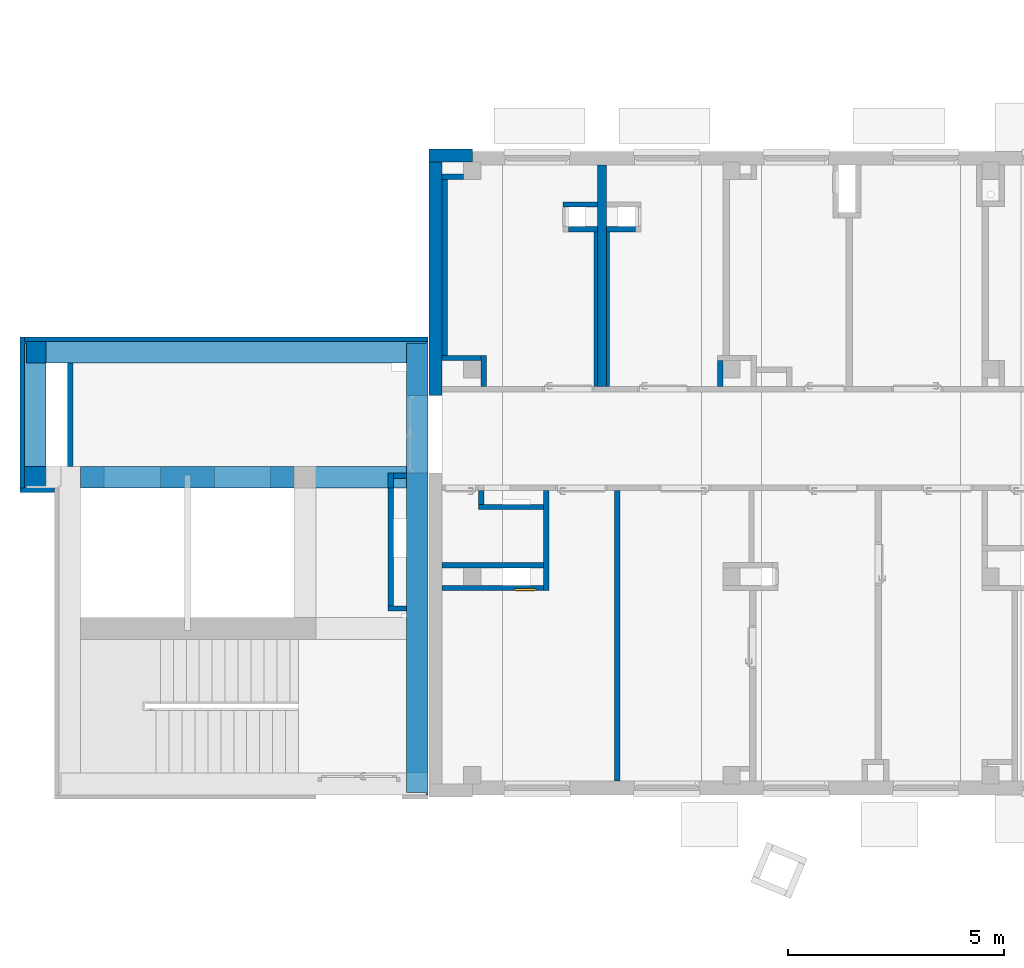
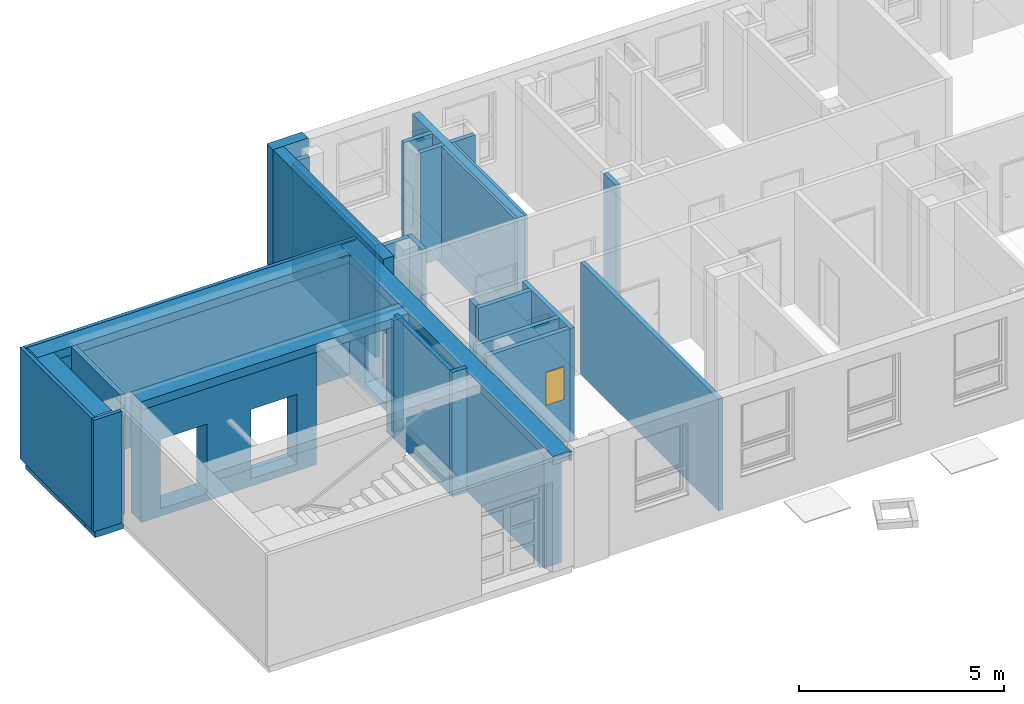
# One storey, part 14 of 140: 33 walls, 1 window, 4 openings.
"""IFC4 building model written with IfcOpenShell, lengths in metres."""

from ifc_helpers import new_model, entity, si_unit, converted_unit, derived_unit, frame, frame_2d, origin, origin_with_axes, place, context, subcontext, project, spatial, polyline, rectangle, outline, extrude, clip, bounded_halfspace, faceted_brep, source, transform, mapped, material, layer, layer_set, layer_usage, element, fill, save


model = new_model("IFC4")

# Units and contexts
model_context = context("Model", 3, precision=1e-05, world=origin())
body_context = subcontext(model_context, "Body", "Model", "MODEL_VIEW")
ifc_project = project(units=[si_unit("LENGTHUNIT", "METRE"), si_unit("AREAUNIT", "SQUARE_METRE"), si_unit("VOLUMEUNIT", "CUBIC_METRE"), si_unit("MASSUNIT", "GRAM", prefix="KILO"), converted_unit("PLANEANGLEUNIT", "DEGREE", entity("IfcPlaneAngleMeasure", 0.0174532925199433), si_unit("PLANEANGLEUNIT", "RADIAN"), dimensions=[0, 0, 0, 0, 0, 0, 0]), derived_unit("THERMALTRANSMITTANCEUNIT", [(si_unit("POWERUNIT", "WATT"), 1), (si_unit("THERMODYNAMICTEMPERATUREUNIT", "KELVIN"), -1), (si_unit("LENGTHUNIT", "METRE"), -2)]), derived_unit("VOLUMETRICFLOWRATEUNIT", [(si_unit("LENGTHUNIT", "METRE"), 3), (converted_unit("TIMEUNIT", "hour", entity("IfcTimeMeasure", 3600.0), si_unit("TIMEUNIT", "SECOND"), dimensions=[0, 0, 1, 0, 0, 0, 0]), -1), (si_unit("LENGTHUNIT", "METRE"), -1)])], contexts=[model_context])

# Site, building, storey
site_placement = place(None, origin())
site = spatial("IfcSite", under=ifc_project, at=site_placement, Name="3. ASŘ", CompositionType="ELEMENT")
building_placement = place(site_placement, origin())
building = spatial("IfcBuilding", under=site, at=building_placement, Name="Pavilon C", CompositionType="ELEMENT")
storey_placement = place(building_placement, origin())
storey = spatial("IfcBuildingStorey", under=building, at=storey_placement, Name="Půdorys 1.NP", CompositionType="ELEMENT", Elevation=0.0)

# Wall, opening
ifc_material_1 = material(Name="ZDIVO Z CDm")
ifc_layer_1 = layer(ifc_material_1, 0.5)
ifc_layer_set_1 = layer_set([ifc_layer_1])
ifc_layer_usage_1 = layer_usage(ifc_layer_set_1, "AXIS2", "POSITIVE", 0.0)
wall_1_placement = place(storey_placement, frame((-1.025, 0.850000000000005, -0.22), z_axis=(0.0, 0.0, 1.0), x_axis=(7.27595761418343e-16, 1.0, 0.0)))
wall_1 = element("IfcWall", 1, at=wall_1_placement, inside=storey, material=ifc_layer_usage_1, Name="ZDIVO Z CDm", context=body_context, shape_type="SweptSolid", body=[
    extrude(rectangle(XDim=10.0, YDim=0.5, at=frame_2d((5.0, 0.25), x_axis=(1.0, 0.0))), origin_with_axes(), (0.0, 0.0, 1.0), 3.35),
])
opening_1_placement = place(wall_1_placement, frame((8.75, 0.5, 0.22), z_axis=(0.0, -1.0, 0.0), x_axis=(0.0, 0.0, 1.0)))
element("IfcOpeningElement", 2, at=opening_1_placement, cuts=wall_1, Name="Dveřní otvor", ObjectType="Opening", context=body_context, shape_type="SweptSolid", body=[
    extrude(outline(polyline([(0.0, 1.8), (2.1, 1.8), (2.1, 0.0), (0.0, 0.0), (0.0, 1.8)])), origin_with_axes(), (0.0, 0.0, 1.0), 0.5),
])

# Walls
ifc_material_2 = material(Name="ZELEZOBETONOVÁ KCE")
ifc_layer_2 = layer(ifc_material_2, 0.3)
ifc_layer_set_2 = layer_set([ifc_layer_2])
ifc_layer_usage_2 = layer_usage(ifc_layer_set_2, "AXIS2", "POSITIVE", 0.0)
wall_2_placement = place(storey_placement, frame((-0.699999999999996, 9.59999999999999, -0.1), z_axis=(0.0, 0.0, 1.0), x_axis=(6.31593542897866e-17, 1.0, 0.0)))
element("IfcWall", 3, at=wall_2_placement, inside=storey, material=ifc_layer_usage_2, Name="ZELEZOBETONOVÁ KCE", context=body_context, shape_type="SweptSolid", body=[
    extrude(rectangle(XDim=5.40000000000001, YDim=0.3, at=frame_2d((2.70000000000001, 0.15), x_axis=(1.0, 0.0))), origin_with_axes(), (0.0, 0.0, 1.0), 3.6),
])
ifc_material_3 = material(Name="ZELEZOBETONOVÁ KCE")
ifc_layer_3 = layer(ifc_material_3, 0.3)
ifc_layer_set_3 = layer_set([ifc_layer_3])
ifc_layer_usage_3 = layer_usage(ifc_layer_set_3, "AXIS2", "POSITIVE", 0.0)
wall_3_placement = place(storey_placement, frame((4.09391348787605e-15, 15.3, -0.1), z_axis=(0.0, 0.0, 1.0), x_axis=(-1.0, 0.0, 0.0)))
element("IfcWall", 4, at=wall_3_placement, inside=storey, material=ifc_layer_usage_3, Name="ZELEZOBETONOVÁ KCE", context=body_context, shape_type="SweptSolid", body=[
    extrude(rectangle(XDim=1.0, YDim=0.3, at=frame_2d((0.500000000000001, 0.15), x_axis=(1.0, 0.0))), origin_with_axes(), (0.0, 0.0, 1.0), 3.6),
])
ifc_material_4 = material(Name="ZDIVO Z CDm")
ifc_layer_4 = layer(ifc_material_4, 0.125)
ifc_layer_set_4 = layer_set([ifc_layer_4])
ifc_layer_usage_4 = layer_usage(ifc_layer_set_4, "AXIS2", "POSITIVE", 0.0)
wall_4_placement = place(storey_placement, frame((-1.52499999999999, 7.79999999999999, -0.22), z_axis=(0.0, 0.0, 1.0), x_axis=(-1.0, 0.0, 0.0)))
element("IfcWall", 5, at=wall_4_placement, inside=storey, material=ifc_layer_usage_4, Name="ZDIVO Z CDm", context=body_context, shape_type="SweptSolid", body=[
    extrude(rectangle(XDim=0.299999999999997, YDim=0.125, at=frame_2d((0.149999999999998, 0.0625), x_axis=(1.0, 0.0))), origin_with_axes(), (0.0, 0.0, 1.0), 3.35),
])
ifc_material_5 = material(Name="ZDIVO Z CDm")
ifc_layer_5 = layer(ifc_material_5, 0.125)
ifc_layer_set_5 = layer_set([ifc_layer_5])
ifc_layer_usage_5 = layer_usage(ifc_layer_set_5, "AXIS2", "POSITIVE", 0.0)
wall_5_placement = place(storey_placement, frame((-1.94999999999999, 7.45, -0.22), z_axis=(0.0, 0.0, 1.0), x_axis=(-8.34398808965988e-17, -1.0, 0.0)))
element("IfcWall", 6, at=wall_5_placement, inside=storey, material=ifc_layer_usage_5, Name="ZDIVO Z CDm", context=body_context, shape_type="SweptSolid", body=[
    extrude(rectangle(XDim=2.725, YDim=0.125, at=frame_2d((1.3625, 0.0625), x_axis=(1.0, 0.0))), origin_with_axes(), (0.0, 0.0, 1.0), 3.7),
])
ifc_material_6 = material(Name="ZDIVO Z CDm")
ifc_layer_6 = layer(ifc_material_6, 0.125)
ifc_layer_set_6 = layer_set([ifc_layer_6])
ifc_layer_usage_6 = layer_usage(ifc_layer_set_6, "AXIS2", "POSITIVE", 0.0)
wall_6_placement = place(storey_placement, frame((-1.94999999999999, 7.79999999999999, -0.22), z_axis=(0.0, 0.0, 1.0), x_axis=(0.0, -1.0, 0.0)))
element("IfcWall", 7, at=wall_6_placement, inside=storey, material=ifc_layer_usage_6, Name="ZDIVO Z CDm", context=body_context, shape_type="SweptSolid", body=[
    extrude(rectangle(XDim=0.34999999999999, YDim=0.125, at=frame_2d((0.174999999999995, 0.0625), x_axis=(1.0, 0.0))), origin_with_axes(), (0.0, 0.0, 1.0), 3.35),
])
ifc_material_7 = material(Name="ZELEZOBETONOVÁ KCE")
ifc_layer_7 = layer(ifc_material_7, 0.199999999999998)
ifc_layer_set_7 = layer_set([ifc_layer_7])
ifc_layer_usage_7 = layer_usage(ifc_layer_set_7, "AXIS2", "POSITIVE", 0.0)
wall_7_placement = place(storey_placement, frame((2.9, 14.93, -0.4), z_axis=(0.0, 0.0, 1.0), x_axis=(-1.77289415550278e-16, -1.0, 0.0)))
element("IfcWall", 8, at=wall_7_placement, inside=storey, material=ifc_layer_usage_7, Name="ZELEZOBETONOVÁ KCE", context=body_context, shape_type="SweptSolid", body=[
    extrude(rectangle(XDim=5.13, YDim=0.199999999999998, at=frame_2d((2.565, 0.0999999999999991), x_axis=(1.0, 0.0))), origin_with_axes(), (0.0, 0.0, 1.0), 3.65),
])
ifc_material_8 = material(Name="ZDIVO Z CDm")
ifc_layer_8 = layer(ifc_material_8, 0.125)
ifc_layer_set_8 = layer_set([ifc_layer_8])
ifc_layer_usage_8 = layer_usage(ifc_layer_set_8, "AXIS2", "POSITIVE", 0.0)
wall_8_placement = place(storey_placement, frame((0.200000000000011, 10.525, -0.1), z_axis=(0.0, 0.0, 1.0), x_axis=(-1.96011789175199e-16, -1.0, 0.0)))
element("IfcWall", 9, at=wall_8_placement, inside=storey, material=ifc_layer_usage_8, Name="ZDIVO Z CDm", context=body_context, shape_type="SweptSolid", body=[
    extrude(rectangle(XDim=0.725000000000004, YDim=0.125, at=frame_2d((0.362500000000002, 0.0625), x_axis=(1.0, 0.0))), origin_with_axes(), (0.0, 0.0, 1.0), 3.35),
])
ifc_material_9 = material(Name="ZDIVO Z CDm")
ifc_layer_9 = layer(ifc_material_9, 0.125)
ifc_layer_set_9 = layer_set([ifc_layer_9])
ifc_layer_usage_9 = layer_usage(ifc_layer_set_9, "AXIS2", "POSITIVE", 0.0)
wall_9_placement = place(storey_placement, frame((-0.699999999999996, 10.4, -0.1)))
element("IfcWall", 10, at=wall_9_placement, inside=storey, material=ifc_layer_usage_9, Name="ZDIVO Z CDm", context=body_context, shape_type="SweptSolid", body=[
    extrude(rectangle(XDim=0.900000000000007, YDim=0.125, at=frame_2d((0.450000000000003, 0.0625), x_axis=(1.0, 0.0))), origin_with_axes(), (0.0, 0.0, 1.0), 3.35),
])
ifc_material_10 = material(Name="PÓROBETONOVÉ ZDIVO")
ifc_layer_10 = layer(ifc_material_10, 0.12)
ifc_layer_set_10 = layer_set([ifc_layer_10])
ifc_layer_usage_10 = layer_usage(ifc_layer_set_10, "AXIS2", "POSITIVE", 0.0)
wall_10_placement = place(storey_placement, frame((-0.699999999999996, 14.6, -0.1), z_axis=(0.0, 0.0, 1.0), x_axis=(-5.57972209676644e-17, -1.0, 0.0)))
element("IfcWall", 11, at=wall_10_placement, inside=storey, material=ifc_layer_usage_10, Name="PÓROBETONOVÉ ZDIVO", context=body_context, shape_type="SweptSolid", body=[
    extrude(rectangle(XDim=4.075, YDim=0.12, at=frame_2d((2.0375, 0.06), x_axis=(1.0, 0.0))), origin_with_axes(), (0.0, 0.0, 1.0), 3.35),
])
ifc_material_11 = material(Name="PÓROBETONOVÉ ZDIVO")
ifc_layer_11 = layer(ifc_material_11, 0.08)
ifc_layer_set_11 = layer_set([ifc_layer_11])
ifc_layer_usage_11 = layer_usage(ifc_layer_set_11, "AXIS2", "POSITIVE", 0.0)
wall_11_placement = place(storey_placement, frame((2.90000000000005, 9.8, -0.1), z_axis=(0.0, 0.0, 1.0), x_axis=(1.27024399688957e-16, 1.0, 0.0)))
element("IfcWall", 12, at=wall_11_placement, inside=storey, material=ifc_layer_usage_11, Name="PÓROBETONOVÉ ZDIVO", context=body_context, shape_type="SweptSolid", body=[
    extrude(rectangle(XDim=3.58, YDim=0.08, at=frame_2d((1.79, 0.04), x_axis=(1.0, 0.0))), origin_with_axes(), (0.0, 0.0, 1.0), 3.35),
])
ifc_material_12 = material(Name="PÓROBETONOVÉ ZDIVO")
ifc_layer_12 = layer(ifc_material_12, 0.08)
ifc_layer_set_12 = layer_set([ifc_layer_12])
ifc_layer_usage_12 = layer_usage(ifc_layer_set_12, "AXIS2", "POSITIVE", 0.0)
wall_12_placement = place(storey_placement, frame((3.1, 13.38, -0.1), z_axis=(0.0, 0.0, 1.0), x_axis=(0.0, -1.0, 0.0)))
element("IfcWall", 13, at=wall_12_placement, inside=storey, material=ifc_layer_usage_12, Name="PÓROBETONOVÉ ZDIVO", context=body_context, shape_type="SweptSolid", body=[
    extrude(rectangle(XDim=3.58, YDim=0.08, at=frame_2d((1.79, 0.04), x_axis=(1.0, 0.0))), origin_with_axes(), (0.0, 0.0, 1.0), 3.35),
])
ifc_material_13 = material(Name="ZDIVO Z CDm")
ifc_layer_13 = layer(ifc_material_13, 0.125)
ifc_layer_set_13 = layer_set([ifc_layer_13])
ifc_layer_usage_13 = layer_usage(ifc_layer_set_13, "AXIS2", "POSITIVE", 0.0)
wall_13_placement = place(storey_placement, frame((-0.699999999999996, 14.6, -0.1)))
element("IfcWall", 14, at=wall_13_placement, inside=storey, material=ifc_layer_usage_13, Name="ZDIVO Z CDm", context=body_context, shape_type="SweptSolid", body=[
    extrude(rectangle(XDim=0.500000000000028, YDim=0.125, at=frame_2d((0.250000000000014, 0.0625), x_axis=(1.0, 0.0))), origin_with_axes(), (0.0, 0.0, 1.0), 3.35),
])
ifc_material_14 = material(Name="ZDIVO Z CDm")
ifc_layer_14 = layer(ifc_material_14, 0.125)
ifc_layer_set_14 = layer_set([ifc_layer_14])
ifc_layer_usage_14 = layer_usage(ifc_layer_set_14, "AXIS2", "POSITIVE", 0.0)
wall_14_placement = place(storey_placement, frame((5.80000000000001, 9.8, -0.1), z_axis=(0.0, 0.0, 1.0), x_axis=(0.0, 1.0, 0.0)))
element("IfcWall", 15, at=wall_14_placement, inside=storey, material=ifc_layer_usage_14, Name="ZDIVO Z CDm", context=body_context, shape_type="SweptSolid", body=[
    extrude(rectangle(XDim=0.6, YDim=0.125, at=frame_2d((0.3, 0.0625), x_axis=(1.0, 0.0))), origin_with_axes(), (0.0, 0.0, 1.0), 3.35),
])
ifc_material_15 = material(Name="ZDIVO Z CDm")
ifc_layer_15 = layer(ifc_material_15, 0.125)
ifc_layer_set_15 = layer_set([ifc_layer_15])
ifc_layer_usage_15 = layer_usage(ifc_layer_set_15, "AXIS2", "POSITIVE", 0.0)
wall_15_placement = place(storey_placement, frame((3.77500000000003, 13.505, -0.1), z_axis=(0.0, 0.0, 1.0), x_axis=(-1.0, 0.0, 0.0)))
element("IfcWall", 16, at=wall_15_placement, inside=storey, material=ifc_layer_usage_15, Name="ZDIVO Z CDm", context=body_context, shape_type="SweptSolid", body=[
    extrude(rectangle(XDim=0.675000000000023, YDim=0.125, at=frame_2d((0.337500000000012, 0.0625), x_axis=(1.0, 0.0))), origin_with_axes(), (0.0, 0.0, 1.0), 3.35),
])
ifc_material_16 = material(Name="ZDIVO Z CDm")
ifc_layer_16 = layer(ifc_material_16, 0.125)
ifc_layer_set_16 = layer_set([ifc_layer_16])
ifc_layer_usage_16 = layer_usage(ifc_layer_set_16, "AXIS2", "POSITIVE", 0.0)
wall_16_placement = place(storey_placement, frame((2.10000000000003, 13.955, -0.1)))
element("IfcWall", 17, at=wall_16_placement, inside=storey, material=ifc_layer_usage_16, Name="ZDIVO Z CDm", context=body_context, shape_type="SweptSolid", body=[
    extrude(rectangle(XDim=0.800000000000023, YDim=0.125, at=frame_2d((0.400000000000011, 0.0625), x_axis=(1.0, 0.0))), origin_with_axes(), (0.0, 0.0, 1.0), 3.35),
])
ifc_material_17 = material(Name="ZDIVO Z CDm")
ifc_layer_17 = layer(ifc_material_17, 0.125)
ifc_layer_set_17 = layer_set([ifc_layer_17])
ifc_layer_usage_17 = layer_usage(ifc_layer_set_17, "AXIS2", "POSITIVE", 0.0)
wall_17_placement = place(storey_placement, frame((2.90000000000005, 13.505, -0.1), z_axis=(0.0, 0.0, 1.0), x_axis=(-1.0, 0.0, 0.0)))
element("IfcWall", 18, at=wall_17_placement, inside=storey, material=ifc_layer_usage_17, Name="ZDIVO Z CDm", context=body_context, shape_type="SweptSolid", body=[
    extrude(rectangle(XDim=0.675000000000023, YDim=0.125, at=frame_2d((0.337500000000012, 0.0625), x_axis=(1.0, 0.0))), origin_with_axes(), (0.0, 0.0, 1.0), 3.35),
])
ifc_material_18 = material(Name="ZDIVO Z CDm")
ifc_layer_18 = layer(ifc_material_18, 0.125)
ifc_layer_set_18 = layer_set([ifc_layer_18])
ifc_layer_usage_18 = layer_usage(ifc_layer_set_18, "AXIS2", "POSITIVE", 0.0)
wall_18_placement = place(storey_placement, frame((-0.699999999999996, 5.6, -0.1)))
element("IfcWall", 19, at=wall_18_placement, inside=storey, material=ifc_layer_usage_18, Name="ZDIVO Z CDm", context=body_context, shape_type="SweptSolid", body=[
    extrude(rectangle(XDim=2.35000000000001, YDim=0.125, at=frame_2d((1.17500000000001, 0.0625), x_axis=(1.0, 0.0))), origin_with_axes(), (0.0, 0.0, 1.0), 3.35),
])

# Wall, opening, window
ifc_material_19 = material(Name="ZDIVO Z CDm")
ifc_layer_19 = layer(ifc_material_19, 0.125)
ifc_layer_set_19 = layer_set([ifc_layer_19])
ifc_layer_usage_19 = layer_usage(ifc_layer_set_19, "AXIS2", "POSITIVE", 0.0)
wall_19_placement = place(storey_placement, frame((1.65000000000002, 5.20000000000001, -0.1), z_axis=(0.0, 0.0, 1.0), x_axis=(-1.0, 0.0, 0.0)))
wall_19 = element("IfcWall", 20, at=wall_19_placement, inside=storey, material=ifc_layer_usage_19, Name="ZDIVO Z CDm", context=body_context, shape_type="SweptSolid", body=[
    extrude(rectangle(XDim=2.35000000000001, YDim=0.125, at=frame_2d((1.17500000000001, 0.0625), x_axis=(1.0, 0.0))), origin_with_axes(), (0.0, 0.0, 1.0), 3.35),
])
opening_2_placement = place(wall_19_placement, frame((0.675, 0.125, 1.3), z_axis=(0.0, -1.0, 0.0), x_axis=(0.0, 0.0, 1.0)))
opening_2 = element("IfcOpeningElement", 21, at=opening_2_placement, cuts=wall_19, Name="Okenní otvor", ObjectType="Opening", context=body_context, shape_type="SweptSolid", body=[
    extrude(outline(polyline([(0.0, 0.5), (1.0, 0.5), (1.0, 0.0), (0.0, 0.0), (0.0, 0.5)])), origin_with_axes(), (0.0, 0.0, 1.0), 0.125),
])
shared_shape = source(origin_with_axes(), body_context, "Body", "Brep", [
    faceted_brep([(0.0, 0.0600000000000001, 1.0), (0.0, 0.06, 4.91096680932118e-19), (0.02, 0.06, 4.91096680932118e-19), (0.02, 0.0600000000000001, 1.0), (0.0, 0.01, 6.61433067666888e-18), (0.0, 0.0100000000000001, 1.0), (0.02, 0.0100000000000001, 1.0), (0.02, 0.01, 6.61433067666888e-18)], [[[0, 1, 2, 3]], [[4, 5, 6, 7]], [[1, 0, 5, 4]], [[2, 1, 4, 7]], [[3, 2, 7, 6]], [[0, 3, 6, 5]]], orient=[[False], [False], [False], [False], [False], [False]]),
    faceted_brep([(0.48, 0.0600000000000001, 1.0), (0.48, 0.06, 4.91096680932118e-19), (0.5, 0.06, 4.91096680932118e-19), (0.5, 0.0600000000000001, 1.0), (0.48, 0.01, 6.61433067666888e-18), (0.48, 0.0100000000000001, 1.0), (0.5, 0.0100000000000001, 1.0), (0.5, 0.01, 6.61433067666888e-18)], [[[0, 1, 2, 3]], [[4, 5, 6, 7]], [[1, 0, 5, 4]], [[2, 1, 4, 7]], [[3, 2, 7, 6]], [[0, 3, 6, 5]]], orient=[[False], [False], [False], [False], [False], [False]]),
    faceted_brep([(0.02, 0.06, 0.02), (0.02, 0.06, 4.91096680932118e-19), (0.48, 0.06, 4.91096680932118e-19), (0.48, 0.06, 0.02), (0.02, 0.01, 6.61433067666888e-18), (0.02, 0.01, 0.02), (0.48, 0.01, 0.02), (0.48, 0.01, 6.61433067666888e-18)], [[[0, 1, 2, 3]], [[4, 5, 6, 7]], [[1, 0, 5, 4]], [[2, 1, 4, 7]], [[3, 2, 7, 6]], [[0, 3, 6, 5]]], orient=[[False], [False], [False], [False], [False], [False]]),
    faceted_brep([(0.02, 0.0600000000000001, 1.0), (0.02, 0.0600000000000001, 0.98), (0.48, 0.0600000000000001, 0.98), (0.48, 0.0600000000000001, 1.0), (0.02, 0.0100000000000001, 0.98), (0.02, 0.0100000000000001, 1.0), (0.48, 0.0100000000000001, 1.0), (0.48, 0.0100000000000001, 0.98)], [[[0, 1, 2, 3]], [[4, 5, 6, 7]], [[1, 0, 5, 4]], [[2, 1, 4, 7]], [[3, 2, 7, 6]], [[0, 3, 6, 5]]], orient=[[False], [False], [False], [False], [False], [False]]),
    faceted_brep([(0.02, 0.0100000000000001, 0.98), (0.02, 0.01, 0.02), (0.48, 0.01, 0.02), (0.48, 0.0100000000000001, 0.98), (0.02, 0.0, 0.02), (0.02, 1.17239551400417e-16, 0.98), (0.48, 1.17239551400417e-16, 0.98), (0.48, 0.0, 0.02)], [[[0, 1, 2, 3]], [[4, 5, 6, 7]], [[1, 0, 5, 4]], [[2, 1, 4, 7]], [[3, 2, 7, 6]], [[0, 3, 6, 5]]], orient=[[False], [False], [False], [False], [False], [False]]),
])
window_placement = place(opening_2_placement, frame((0.0, 0.5, -0.01), z_axis=(1.0, 0.0, 0.0), x_axis=(0.0, -1.0, 0.0)))
window = element("IfcWindow", 22, at=window_placement, inside=storey, Name="O01", OverallHeight=1.0, OverallWidth=0.5, PartitioningType="USERDEFINED", PredefinedType="WINDOW", context=body_context, shape_type="MappedRepresentation", body=[
    mapped(shared_shape, transform((0.0, 0.0, 0.0), x_axis=(1.0, 0.0, 0.0), y_axis=(0.0, -1.0, 0.0), z_axis=(0.0, 0.0, 1.0), scale=1.0)),
])
fill(opening_2, window)

# Walls
ifc_material_20 = material(Name="ZDIVO Z CDm")
ifc_layer_20 = layer(ifc_material_20, 0.125)
ifc_layer_set_20 = layer_set([ifc_layer_20])
ifc_layer_usage_20 = layer_usage(ifc_layer_set_20, "AXIS2", "POSITIVE", 0.0)
wall_20_placement = place(storey_placement, frame((1.65000000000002, 7.4, -0.1), z_axis=(0.0, 0.0, 1.0), x_axis=(-9.77951292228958e-17, -1.0, 0.0)))
element("IfcWall", 23, at=wall_20_placement, inside=storey, material=ifc_layer_usage_20, Name="ZDIVO Z CDm", context=body_context, shape_type="SweptSolid", body=[
    extrude(rectangle(XDim=2.32499999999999, YDim=0.125, at=frame_2d((1.1625, 0.0625), x_axis=(1.0, 0.0))), origin_with_axes(), (0.0, 0.0, 1.0), 3.35),
])
ifc_material_21 = material(Name="ZDIVO Z CDm")
ifc_layer_21 = layer(ifc_material_21, 0.125)
ifc_layer_set_21 = layer_set([ifc_layer_21])
ifc_layer_usage_21 = layer_usage(ifc_layer_set_21, "AXIS2", "POSITIVE", 0.0)
wall_21_placement = place(storey_placement, frame((1.65000000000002, 7.075, -0.1), z_axis=(0.0, 0.0, 1.0), x_axis=(-1.0, 0.0, 0.0)))
element("IfcWall", 24, at=wall_21_placement, inside=storey, material=ifc_layer_usage_21, Name="ZDIVO Z CDm", context=body_context, shape_type="SweptSolid", body=[
    extrude(rectangle(XDim=1.50500000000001, YDim=0.125, at=frame_2d((0.752500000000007, 0.0625), x_axis=(1.0, 0.0))), origin_with_axes(), (0.0, 0.0, 1.0), 3.35),
])
ifc_material_22 = material(Name="ZDIVO Z CDm")
ifc_layer_22 = layer(ifc_material_22, 0.125)
ifc_layer_set_22 = layer_set([ifc_layer_22])
ifc_layer_usage_22 = layer_usage(ifc_layer_set_22, "AXIS2", "POSITIVE", 0.0)
wall_22_placement = place(storey_placement, frame((0.270000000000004, 7.075, -0.1), z_axis=(0.0, 0.0, 1.0), x_axis=(0.0, 1.0, 0.0)))
element("IfcWall", 25, at=wall_22_placement, inside=storey, material=ifc_layer_usage_22, Name="ZDIVO Z CDm", context=body_context, shape_type="SweptSolid", body=[
    extrude(rectangle(XDim=0.325000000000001, YDim=0.125, at=frame_2d((0.1625, 0.0625), x_axis=(1.0, 0.0))), origin_with_axes(), (0.0, 0.0, 1.0), 3.35),
])
ifc_material_23 = material(Name="ZDIVO Z CDm")
ifc_layer_23 = layer(ifc_material_23, 0.125)
ifc_layer_set_23 = layer_set([ifc_layer_23])
ifc_layer_usage_23 = layer_usage(ifc_layer_set_23, "AXIS2", "POSITIVE", 0.0)
wall_23_placement = place(storey_placement, frame((-1.94999999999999, 4.6, -0.22)))
element("IfcWall", 26, at=wall_23_placement, inside=storey, material=ifc_layer_usage_23, Name="ZDIVO Z CDm", context=body_context, shape_type="SweptSolid", body=[
    extrude(rectangle(XDim=0.424999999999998, YDim=0.125, at=frame_2d((0.212499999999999, 0.0625), x_axis=(1.0, 0.0))), origin_with_axes(), (0.0, 0.0, 1.0), 3.7),
])
ifc_material_24 = material(Name="ZDIVO Z CDm")
ifc_layer_24 = layer(ifc_material_24, 0.125)
ifc_layer_set_24 = layer_set([ifc_layer_24])
ifc_layer_usage_24 = layer_usage(ifc_layer_set_24, "AXIS2", "POSITIVE", 0.0)
wall_24_placement = place(storey_placement, frame((3.295, 7.4, -0.1), z_axis=(0.0, 0.0, 1.0), x_axis=(-2.02710557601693e-16, -1.0, 0.0)))
element("IfcWall", 27, at=wall_24_placement, inside=storey, material=ifc_layer_usage_24, Name="ZDIVO Z CDm", context=body_context, shape_type="SweptSolid", body=[
    extrude(rectangle(XDim=6.73, YDim=0.125, at=frame_2d((3.365, 0.0625000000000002), x_axis=(1.0, 0.0))), origin_with_axes(), (0.0, 0.0, 1.0), 3.35),
])
ifc_material_25 = material(Name="ZDIVO Z CDm")
ifc_layer_25 = layer(ifc_material_25, 0.125)
ifc_layer_set_25 = layer_set([ifc_layer_25])
ifc_layer_usage_25 = layer_usage(ifc_layer_set_25, "AXIS2", "POSITIVE", 0.0)
wall_25_placement = place(storey_placement, frame((-9.37499999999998, 10.35, -0.22), z_axis=(0.0, 0.0, 1.0), x_axis=(0.0, -1.0, 0.0)))
element("IfcWall", 28, at=wall_25_placement, inside=storey, material=ifc_layer_usage_25, Name="ZDIVO Z CDm", context=body_context, shape_type="SweptSolid", body=[
    extrude(rectangle(XDim=2.4, YDim=0.125, at=frame_2d((1.2, 0.0625), x_axis=(1.0, 0.0))), origin_with_axes(), (0.0, 0.0, 1.0), 3.6),
])
ifc_material_26 = material(Name="EPS")
ifc_layer_26 = layer(ifc_material_26, 0.1)
ifc_material_27 = material(Name="ZDIVO Z CDm")
ifc_layer_27 = layer(ifc_material_27, 0.5)
ifc_layer_set_26 = layer_set([ifc_layer_26, ifc_layer_27])
ifc_layer_usage_26 = layer_usage(ifc_layer_set_26, "AXIS2", "POSITIVE", 0.0)
wall_26_placement = place(storey_placement, frame((-1.02499999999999, 10.95, -0.22), z_axis=(0.0, 0.0, 1.0), x_axis=(-1.0, 0.0, 0.0)))
element("IfcWall", 29, at=wall_26_placement, inside=storey, material=ifc_layer_usage_26, Name="ZDIVO Z CDm", context=body_context, shape_type="Clipping", body=[
    clip(clip(extrude(outline(polyline([(-9.34999999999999, -0.6), (0.0, -0.6), (0.0, -0.5), (-0.5, -0.5), (-0.5, 0.0), (-8.84999999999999, 0.0), (-8.84999999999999, -0.5), (-9.34999999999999, -0.5), (-9.34999999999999, -0.6)])), frame((9.34999999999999, 0.6, 0.0), z_axis=(0.0, 0.0, 1.0), x_axis=(1.0, 0.0, 0.0)), (0.0, 0.0, 1.0), 3.6), bounded_halfspace(frame((4.675, 0.0666666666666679, 0.27), z_axis=(0.0, 0.0, 1.0), x_axis=(-1.0, 0.0, 0.0)), True, origin_with_axes(), polyline([(8.84999999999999, 0.1), (0.499999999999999, 0.1), (0.0, 0.1), (0.0, 0.0), (9.34999999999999, 0.0), (9.34999999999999, 0.1), (8.84999999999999, 0.1)]))), bounded_halfspace(frame((4.675, 0.35, 3.35), z_axis=(0.0, 0.0, -1.0), x_axis=(1.0, 0.0, 0.0)), True, origin_with_axes(), polyline([(0.5, 0.1), (8.84999999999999, 0.1), (8.84999999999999, 0.6), (0.5, 0.6), (0.5, 0.1)]))),
])
ifc_material_28 = material(Name="EPS")
ifc_layer_28 = layer(ifc_material_28, 0.1)
ifc_material_29 = material(Name="ZDIVO Z CDm")
ifc_layer_29 = layer(ifc_material_29, 0.5)
ifc_layer_set_27 = layer_set([ifc_layer_28, ifc_layer_29])
ifc_layer_usage_27 = layer_usage(ifc_layer_set_27, "AXIS2", "POSITIVE", 0.0)
wall_27_placement = place(storey_placement, frame((-10.475, 10.95, -0.22), z_axis=(0.0, 0.0, 1.0), x_axis=(0.0, -1.0, 0.0)))
element("IfcWall", 30, at=wall_27_placement, inside=storey, material=ifc_layer_usage_27, Name="ZDIVO Z CDm", context=body_context, shape_type="Clipping", body=[
    clip(clip(extrude(outline(polyline([(-3.5, 0.0), (0.0, 0.0), (0.0, 0.1), (-0.499999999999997, 0.1), (-0.499999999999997, 0.6), (-3.4, 0.6), (-3.4, 0.1), (-3.5, 0.1), (-3.5, 0.0)])), frame((3.5, 0.0, 0.0), z_axis=(0.0, 0.0, 1.0), x_axis=(1.0, 0.0, 0.0)), (0.0, 0.0, 1.0), 3.6), bounded_halfspace(frame((1.68333333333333, 0.0666666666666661, 0.27), z_axis=(0.0, 0.0, 1.0), x_axis=(-1.0, 0.0, 0.0)), True, origin_with_axes(), polyline([(3.0, 0.1), (0.100000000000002, 0.1), (0.0, 0.1), (0.0, 0.0), (3.5, 0.0), (3.5, 0.1), (3.0, 0.1)]))), bounded_halfspace(frame((1.55, 0.35, 3.35), z_axis=(0.0, 0.0, -1.0), x_axis=(1.0, 0.0, 0.0)), True, origin_with_axes(), polyline([(0.1, 0.1), (3.0, 0.1), (3.0, 0.6), (0.1, 0.6), (0.1, 0.1)]))),
])

# Wall, openings
ifc_material_30 = material(Name="ZDIVO Z CDm")
ifc_layer_30 = layer(ifc_material_30, 0.5)
ifc_layer_set_28 = layer_set([ifc_layer_30])
ifc_layer_usage_28 = layer_usage(ifc_layer_set_28, "AXIS2", "POSITIVE", 0.0)
wall_28_placement = place(storey_placement, frame((-4.12499999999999, 7.95, -0.22), z_axis=(0.0, 0.0, 1.0), x_axis=(-1.0, 0.0, 0.0)))
wall_28 = element("IfcWall", 31, at=wall_28_placement, inside=storey, material=ifc_layer_usage_28, Name="ZDIVO Z CDm", context=body_context, shape_type="SweptSolid", body=[
    extrude(rectangle(XDim=4.94999999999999, YDim=0.5, at=frame_2d((2.475, 0.25), x_axis=(1.0, 0.0))), origin_with_axes(), (0.0, 0.0, 1.0), 3.35),
])
opening_3_placement = place(wall_28_placement, frame((3.1, 0.0, 0.22), z_axis=(0.0, 1.0, 0.0), x_axis=(0.0, 0.0, 1.0)))
element("IfcOpeningElement", 32, at=opening_3_placement, cuts=wall_28, Name="Dveřní otvor", ObjectType="Opening", context=body_context, shape_type="SweptSolid", body=[
    extrude(outline(polyline([(0.0, 1.3), (2.07, 1.3), (2.07, 0.0), (0.0, 0.0), (0.0, 1.3)])), origin_with_axes(), (0.0, 0.0, 1.0), 0.5),
])
opening_4_placement = place(wall_28_placement, frame((0.55, 0.0, 0.22), z_axis=(0.0, 1.0, 0.0), x_axis=(0.0, 0.0, 1.0)))
element("IfcOpeningElement", 33, at=opening_4_placement, cuts=wall_28, Name="Dveřní otvor", ObjectType="Opening", context=body_context, shape_type="SweptSolid", body=[
    extrude(outline(polyline([(0.0, 1.3), (2.07, 1.3), (2.07, 0.0), (0.0, 0.0), (0.0, 1.3)])), origin_with_axes(), (0.0, 0.0, 1.0), 0.5),
])

# Walls
ifc_material_31 = material(Name="EPS")
ifc_layer_31 = layer(ifc_material_31, 0.1)
ifc_material_32 = material(Name="ZDIVO Z CDm")
ifc_layer_32 = layer(ifc_material_32, 0.499999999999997)
ifc_layer_set_29 = layer_set([ifc_layer_31, ifc_layer_32])
ifc_layer_usage_29 = layer_usage(ifc_layer_set_29, "AXIS2", "POSITIVE", 0.0)
wall_29_placement = place(storey_placement, frame((-10.475, 7.35000000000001, -0.22), z_axis=(0.0, 0.0, 1.0), x_axis=(1.0, -1.13686837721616e-15, 0.0)))
element("IfcWall", 34, at=wall_29_placement, inside=storey, material=ifc_layer_usage_29, Name="ZDIVO Z CDm", context=body_context, shape_type="Clipping", body=[
    clip(clip(extrude(outline(polyline([(-1.03397576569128e-30, 9.09494701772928e-16), (0.8, 9.09494701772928e-16), (0.8, 0.100000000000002), (0.9, 0.100000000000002), (0.899999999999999, 0.599999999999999), (0.0999999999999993, 0.599999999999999), (0.0999999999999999, 0.100000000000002), (-1.13686837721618e-16, 0.100000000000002), (-1.03397576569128e-30, 9.09494701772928e-16)])), frame((1.03397576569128e-30, -9.09494701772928e-16, 0.0), z_axis=(0.0, 0.0, 1.0), x_axis=(1.0, 0.0, 0.0)), (0.0, 0.0, 1.0), 3.6), bounded_halfspace(frame((0.339999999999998, 0.0600000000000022, 0.27), z_axis=(0.0, 0.0, 1.0), x_axis=(-1.0, -1.13686837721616e-15, 0.0)), True, origin_with_axes(), polyline([(0.0999999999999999, 0.100000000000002), (-1.13686837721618e-16, 0.100000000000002), (-1.03397576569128e-30, 9.09494701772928e-16), (0.8, 9.09494701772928e-16), (0.8, 0.100000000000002), (0.0999999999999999, 0.100000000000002)]))), bounded_halfspace(frame((0.559999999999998, 0.300000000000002, 3.35), z_axis=(0.0, 0.0, -1.0), x_axis=(1.0, 1.13686837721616e-15, 0.0)), True, origin_with_axes(), polyline([(0.8, 0.100000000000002), (0.9, 0.100000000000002), (0.899999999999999, 0.599999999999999), (0.0999999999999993, 0.599999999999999), (0.0999999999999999, 0.100000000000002), (0.8, 0.100000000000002)]))),
])
ifc_material_33 = material(Name="ZELEZOBETONOVÁ KCE")
ifc_layer_33 = layer(ifc_material_33, 0.5)
ifc_layer_set_30 = layer_set([ifc_layer_33])
ifc_layer_usage_30 = layer_usage(ifc_layer_set_30, "AXIS2", "POSITIVE", 0.0)
wall_30_placement = place(storey_placement, frame((-9.07499999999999, 7.45, 3.13)))
element("IfcWall", 35, at=wall_30_placement, inside=storey, material=ifc_layer_usage_30, context=body_context, shape_type="SweptSolid", body=[
    extrude(rectangle(XDim=7.55, YDim=0.5, at=frame_2d((3.775, 0.25), x_axis=(1.0, 0.0))), origin_with_axes(), (0.0, 0.0, 1.0), 0.25),
])
ifc_material_34 = material(Name="ZELEZOBETONOVÁ KCE")
ifc_layer_34 = layer(ifc_material_34, 0.45)
ifc_material_35 = material(Name="LIGNOPOR")
ifc_layer_35 = layer(ifc_material_35, 0.05)
ifc_layer_set_31 = layer_set([ifc_layer_34, ifc_layer_35])
ifc_layer_usage_31 = layer_usage(ifc_layer_set_31, "AXIS2", "POSITIVE", 0.0)
wall_31_placement = place(storey_placement, frame((-9.87499999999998, 7.5, 3.13), z_axis=(0.0, 0.0, 1.0), x_axis=(0.0, 1.0, 0.0)))
element("IfcWall", 36, at=wall_31_placement, inside=storey, material=ifc_layer_usage_31, context=body_context, shape_type="SweptSolid", body=[
    extrude(outline(polyline([(0.05, -0.5), (2.9, -0.5), (2.9, -0.05), (3.35, -0.05), (3.35, 0.0), (0.0, 0.0), (0.0, -0.05), (0.05, -0.05), (0.05, -0.5)])), frame((-0.05, 0.5, 0.0), z_axis=(0.0, 0.0, 1.0), x_axis=(1.0, 0.0, 0.0)), (0.0, 0.0, 1.0), 0.25),
])
ifc_material_36 = material(Name="ZELEZOBETONOVÁ KCE")
ifc_layer_36 = layer(ifc_material_36, 0.45)
ifc_material_37 = material(Name="LIGNOPOR")
ifc_layer_37 = layer(ifc_material_37, 0.05)
ifc_layer_set_32 = layer_set([ifc_layer_36, ifc_layer_37])
ifc_layer_usage_32 = layer_usage(ifc_layer_set_32, "AXIS2", "POSITIVE", 0.0)
wall_32_placement = place(storey_placement, frame((-1.52499999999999, 10.8, 3.13), z_axis=(0.0, 0.0, 1.0), x_axis=(-6.99611309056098e-16, -1.0, 0.0)))
element("IfcWall", 37, at=wall_32_placement, inside=storey, material=ifc_layer_usage_32, context=body_context, shape_type="SweptSolid", body=[
    extrude(outline(polyline([(-10.45, -3.49805654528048e-17), (-0.05, -3.49805654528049e-17), (-0.0500000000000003, 0.45), (-3.14825089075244e-16, 0.45), (-3.49805654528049e-16, 0.5), (-10.5, 0.5), (-10.5, 0.45), (-10.45, 0.45), (-10.45, -3.49805654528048e-17)])), frame((10.45, 3.49805654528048e-17, 0.0), z_axis=(0.0, 0.0, 1.0), x_axis=(1.0, 0.0, 0.0)), (0.0, 0.0, 1.0), 0.25),
])
ifc_material_38 = material(Name="ZELEZOBETONOVÁ KCE")
ifc_layer_38 = layer(ifc_material_38, 0.45)
ifc_material_39 = material(Name="LIGNOPOR")
ifc_layer_39 = layer(ifc_material_39, 0.05)
ifc_layer_set_33 = layer_set([ifc_layer_38, ifc_layer_39])
ifc_layer_usage_33 = layer_usage(ifc_layer_set_33, "AXIS2", "POSITIVE", 0.0)
wall_33_placement = place(storey_placement, frame((-10.325, 10.35, 3.13), z_axis=(0.0, 0.0, 1.0), x_axis=(1.0, 8.26813365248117e-16, 0.0)))
element("IfcWall", 38, at=wall_33_placement, inside=storey, material=ifc_layer_usage_33, context=body_context, shape_type="SweptSolid", body=[
    extrude(outline(polyline([(0.05, -4.13406682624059e-17), (8.84999999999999, -4.13406682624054e-17), (8.84999999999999, 0.45), (9.29999999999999, 0.45), (9.29999999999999, 0.5), (4.13406682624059e-16, 0.5), (3.72066014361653e-16, 0.45), (0.0500000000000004, 0.45), (0.05, -4.13406682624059e-17)])), frame((-0.05, 4.13406682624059e-17, 0.0), z_axis=(0.0, 0.0, 1.0), x_axis=(1.0, 0.0, 0.0)), (0.0, 0.0, 1.0), 0.25),
])

save(model, "model.ifc")
